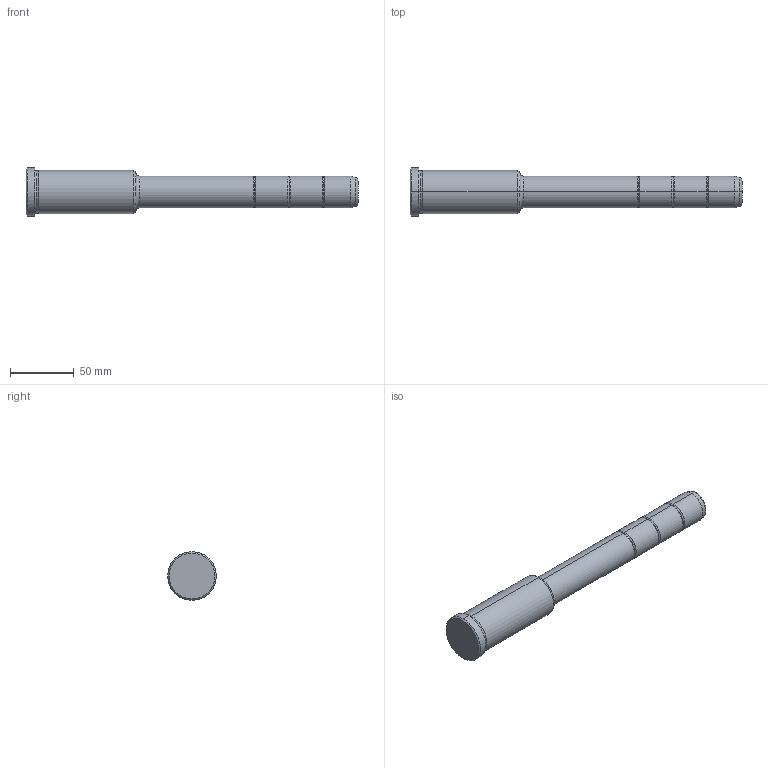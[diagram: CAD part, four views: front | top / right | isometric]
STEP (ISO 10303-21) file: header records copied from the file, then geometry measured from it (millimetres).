
FILE_DESCRIPTION(('CATIA V5 STEP Exchange'),'2;1');
FILE_NAME('C:\Users\Utente\Desktop\IO LAVORO\3D X SITO CF\X SITO\PLASTICA\351\351-25X86X260.stp','2021-09-07T11:22:41+00:00',('none'),('none'),'CATIA Version 5 Release 20 GA (IN-10)','CATIA V5 STEP AP203','none');
FILE_SCHEMA(('CONFIG_CONTROL_DESIGN'));
Length unit declared in the file: millimetre
Products named in the file (1): 351-25X86X260
Bounding box: 260 x 38 x 38 mm (x, y, z)
Volume: 164196.3 mm3; surface area: 24949.4 mm2
Topology: 1 solids, 1 shells, 42 faces, 118 edges, 80 vertices
Faces by surface type: torus 20, cylinder 12, cone 6, plane 4
Entity records: 1472 total; most frequent: CARTESIAN_POINT 353, ORIENTED_EDGE 236, DIRECTION 194, AXIS2_PLACEMENT_3D 135, EDGE_CURVE 118, CIRCLE 92, VERTEX_POINT 80, EDGE_LOOP 44
